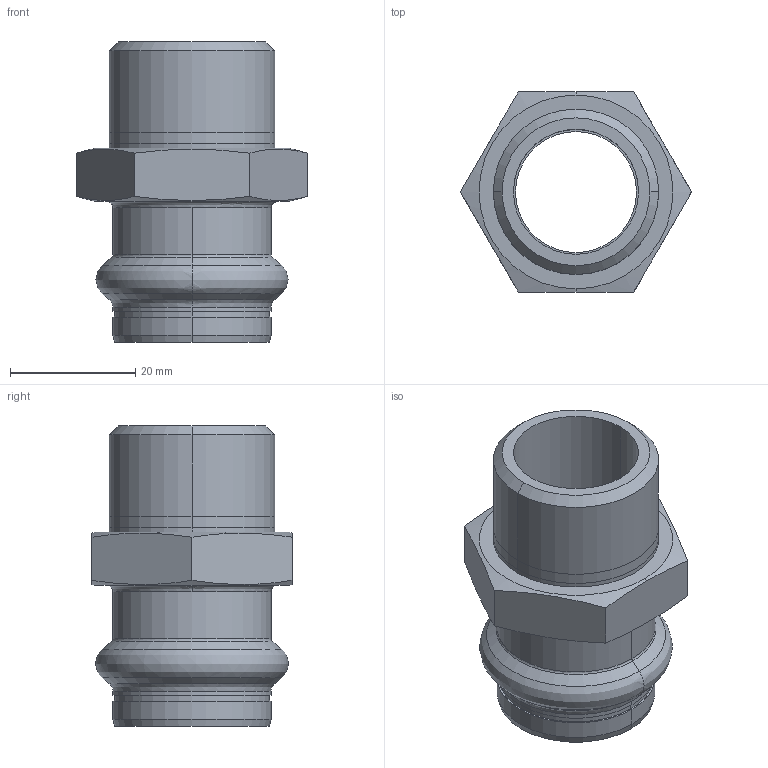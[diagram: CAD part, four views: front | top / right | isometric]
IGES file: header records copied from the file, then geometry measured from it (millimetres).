
Start section: Elysium IGES Interface
Global section: file name: C:\Users\Wallenburg\Desktop\3d modellen sudo\S-Pr VP\SP6243GV\6243GVW2234.igs; native system: CoCreate Modeling 17.00A  17-Jun-2010; preprocessor: CoCreate IGES_3D V2.2; author: Unknown; organization: Unknown; date: 20130124.140118; units: millimetre
Bounding box: 36.95 x 32 x 48 mm (x, y, z)
Volume: 12411.4 mm3; surface area: 8724.4 mm2
Topology: 1 solids, 1 shells, 60 faces, 140 edges, 84 vertices
Faces by surface type: bspline 60
